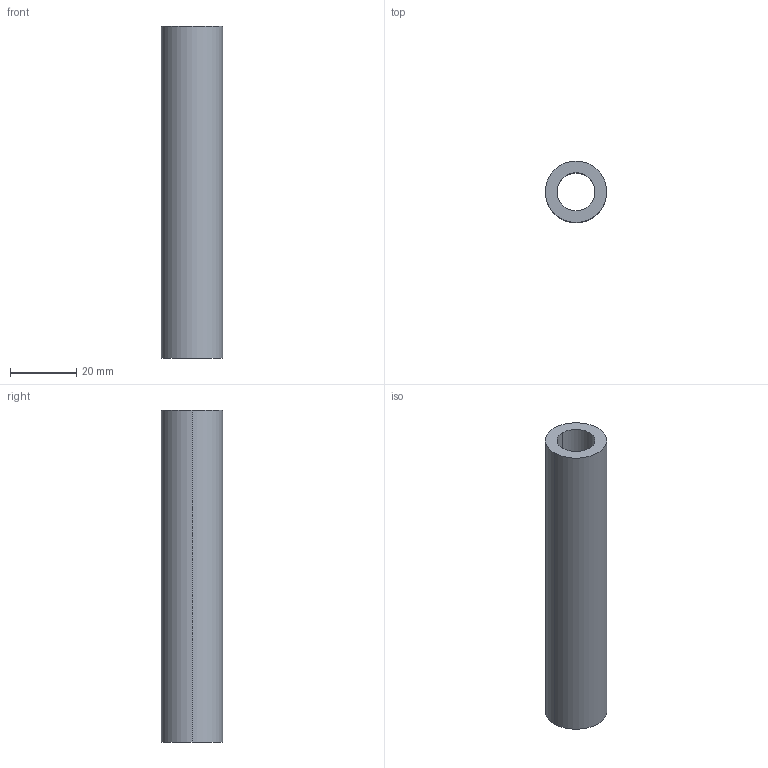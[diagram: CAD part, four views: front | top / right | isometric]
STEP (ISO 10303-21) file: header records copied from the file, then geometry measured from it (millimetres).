
FILE_DESCRIPTION (( 'STEP AP203' ), '1' );
FILE_NAME ('19-0408-22_outokumpu.step', '2015-08-11T09:37:14', ( '' ), ( '' ), 'SwSTEP 2.0', 'SolidWorks 2008', '' );
FILE_SCHEMA (( 'CONFIG_CONTROL_DESIGN' ));
Length unit declared in the file: millimetre
Products named in the file (1): 19-0408-22_outokumpu
Bounding box: 18.5 x 18.5 x 100 mm (x, y, z)
Volume: 16238.8 mm3; surface area: 9774.3 mm2
Topology: 1 solids, 1 shells, 12 faces, 26 edges, 16 vertices
Faces by surface type: cylinder 6, cone 4, plane 2
Entity records: 415 total; most frequent: DIRECTION 68, CARTESIAN_POINT 55, ORIENTED_EDGE 52, AXIS2_PLACEMENT_3D 29, EDGE_CURVE 26, VERTEX_POINT 16, CIRCLE 16, EDGE_LOOP 14
